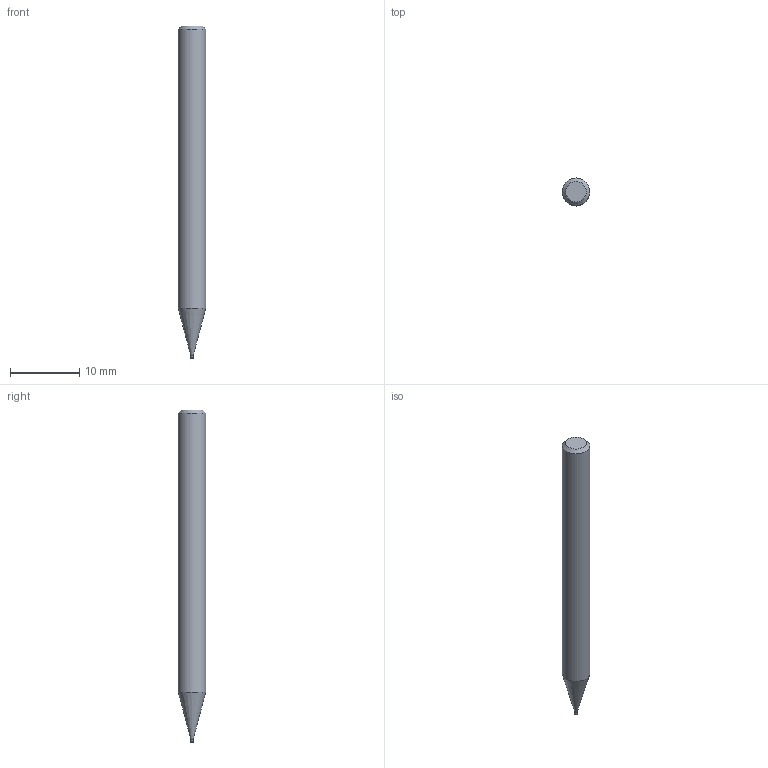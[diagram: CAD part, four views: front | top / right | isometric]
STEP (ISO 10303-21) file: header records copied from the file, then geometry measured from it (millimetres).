
FILE_DESCRIPTION((''),'2;1');
FILE_NAME('C:\Users\nsx150\AppData\Local\Temp\Mastercam 2021\LJSIDMOTM8\TEMP.step','2021-08-03T14:25:53',(''),(''),'STEP Write','Mastercam 2021 ... CNC Software, Inc.','');
FILE_SCHEMA(('AUTOMOTIVE_DESIGN'));
Length unit declared in the file: millimetre
Products named in the file (1): None
Bounding box: 4 x 4 x 48 mm (x, y, z)
Volume: 542.6 mm3; surface area: 570.3 mm2
Topology: 2 solids, 2 shells, 9 faces, 12 edges, 7 vertices
Faces by surface type: plane 4, cylinder 3, cone 2
Full cylindrical faces by diameter (mm): 0.36 x1, 0.4 x1, 4 x1
Entity records: 211 total; most frequent: DIRECTION 36, CARTESIAN_POINT 25, AXIS2_PLACEMENT_3D 18, ORIENTED_EDGE 14, EDGE_LOOP 14, STYLED_ITEM 12, ADVANCED_FACE 9, FACE_BOUND 8
